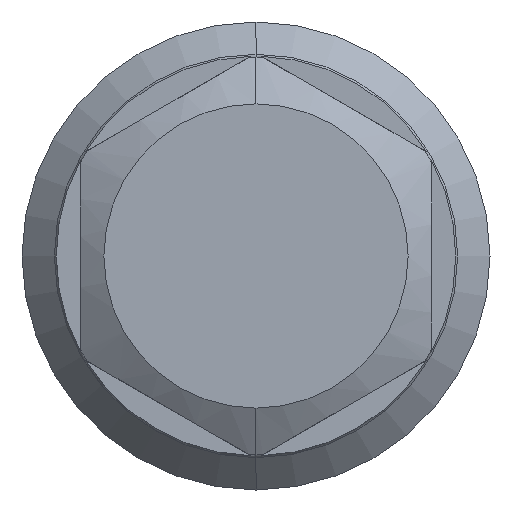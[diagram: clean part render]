
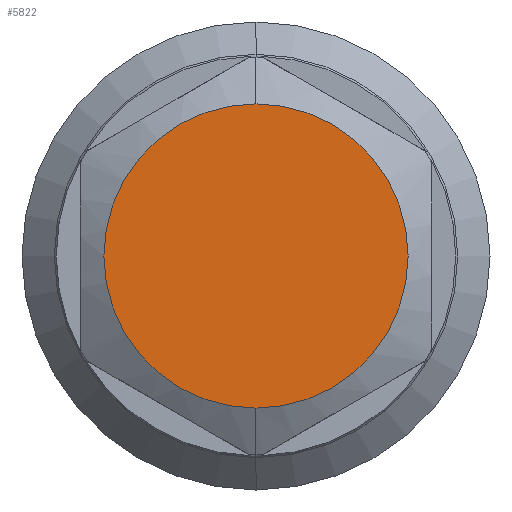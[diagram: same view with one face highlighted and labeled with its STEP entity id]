
A CAD part, left-side view. The second image highlights one B-rep face of the part: STEP entity #5822.
In plain terms, the highlighted planar face has unit normal (-1, 0, 0).
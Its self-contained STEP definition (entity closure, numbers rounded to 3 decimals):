
#464 = VERTEX_POINT ( 'NONE', #4791 ) ;
#1884 = AXIS2_PLACEMENT_3D ( 'NONE', #1994, #1998, #2012 ) ;
#1994 = CARTESIAN_POINT ( 'NONE',  ( 0., 0., 0. ) ) ;
#1998 = DIRECTION ( 'NONE',  ( -1., 0., 0. ) ) ;
#2012 = DIRECTION ( 'NONE',  ( 0., 0., 1. ) ) ;
#3110 = EDGE_CURVE ( 'NONE', #9163, #464, #12426, .T. ) ;
#4791 = CARTESIAN_POINT ( 'NONE',  ( 0., 0., -13. ) ) ;
#4862 = DIRECTION ( 'NONE',  ( 0., 0., 1. ) ) ;
#5004 = DIRECTION ( 'NONE',  ( -1., 0., 0. ) ) ;
#5053 = AXIS2_PLACEMENT_3D ( 'NONE', #10548, #10493, #10250 ) ;
#5822 = ADVANCED_FACE ( 'NONE', ( #12889 ), #10801, .F. ) ;
#6161 = CARTESIAN_POINT ( 'NONE',  ( 0., 0., 0. ) ) ;
#8094 = AXIS2_PLACEMENT_3D ( 'NONE', #6161, #5004, #4862 ) ;
#9163 = VERTEX_POINT ( 'NONE', #10366 ) ;
#9389 = EDGE_LOOP ( 'NONE', ( #12453, #13565 ) ) ;
#10250 = DIRECTION ( 'NONE',  ( 0., 0., -1. ) ) ;
#10366 = CARTESIAN_POINT ( 'NONE',  ( 0., 0., 13. ) ) ;
#10493 = DIRECTION ( 'NONE',  ( 1., 0., 0. ) ) ;
#10548 = CARTESIAN_POINT ( 'NONE',  ( 0., 0., 0. ) ) ;
#10801 = PLANE ( 'NONE',  #5053 ) ;
#12426 = CIRCLE ( 'NONE', #1884, 13. ) ;
#12453 = ORIENTED_EDGE ( 'NONE', *, *, #13969, .T. ) ;
#12889 = FACE_OUTER_BOUND ( 'NONE', #9389, .T. ) ;
#13565 = ORIENTED_EDGE ( 'NONE', *, *, #3110, .T. ) ;
#13969 = EDGE_CURVE ( 'NONE', #464, #9163, #14181, .T. ) ;
#14181 = CIRCLE ( 'NONE', #8094, 13. ) ;
